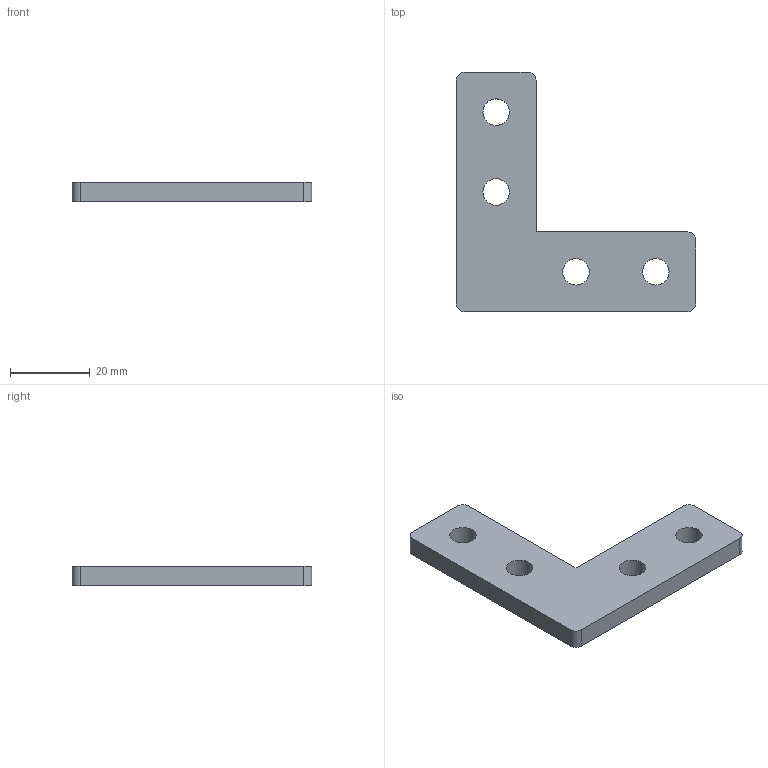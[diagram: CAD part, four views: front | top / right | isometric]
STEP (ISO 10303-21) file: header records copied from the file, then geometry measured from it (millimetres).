
FILE_DESCRIPTION(/* description */ ('ANGLE CONNECTIONSTRIP 90° 60MM'),/* implementation_level */ '2;1');
FILE_NAME(/* name */ 'X:\Carryline\Katalog\STEP-Carryline Standarddelar\Serie 100\100-7022.stp',/* time_stamp */ '2014-07-08T13:04:33+02:00',/* author */ ('mathias'),/* organization */ ('CARRYLINE'),/* preprocessor_version */ 'ST-DEVELOPER v15.2',/* originating_system */ 'Autodesk Inventor 2014',/* authorisation */ '');
FILE_SCHEMA (('AUTOMOTIVE_DESIGN { 1 0 10303 214 3 1 1 }'));
Length unit declared in the file: millimetre
Products named in the file (1): 100-7022
Bounding box: 60 x 60 x 5 mm (x, y, z)
Volume: 9284.5 mm3; surface area: 5310 mm2
Topology: 1 solids, 1 shells, 17 faces, 49 edges, 34 vertices
Faces by surface type: cylinder 9, plane 8
Full cylindrical faces by diameter (mm): 6.647 x4
Entity records: 554 total; most frequent: DIRECTION 95, CARTESIAN_POINT 89, ORIENTED_EDGE 82, EDGE_CURVE 41, AXIS2_PLACEMENT_3D 36, VERTEX_POINT 30, EDGE_LOOP 29, LINE 23
